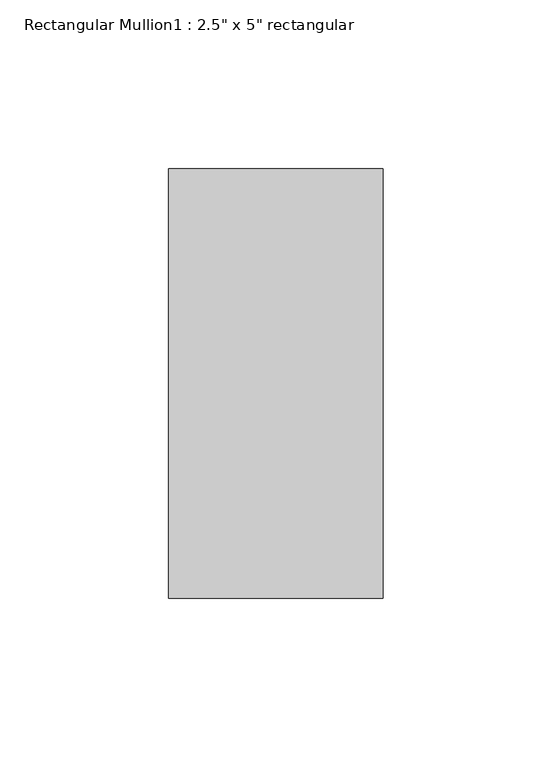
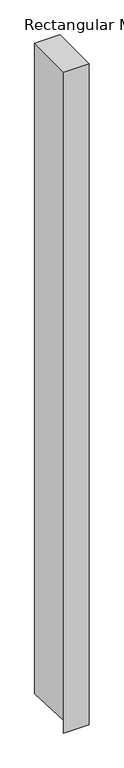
"""IFC4 building model written with IfcOpenShell, lengths in millimetres: member geometry."""

from ifc_helpers import new_model, si_unit, frame, origin, place, context, project, spatial, polyline, outline, extrude, source, transform, mapped, element, save


def member_2ed1719b(model_context):
    return source(origin(), model_context, "Body", "SweptSolid", [
        extrude(outline(polyline([(-63.5, 0.0), (63.5, 0.0), (63.5, -1736.0758182), (-62.1741259, -1731.0262636), (-63.5, -1764.0248302), (-63.5, 0.0)])), frame((-63.5, 0.0, 0.0), z_axis=(1.0, 0.0, 0.0), x_axis=(0.0, 1.0, 0.0)), (0.0, 0.0, 1.0), 63.5),
    ])


if __name__ == "__main__":
    model = new_model("IFC4")
    model_context = context("Model", 3, world=origin())
    ifc_project = project(units=[si_unit("LENGTHUNIT", "METRE", prefix="MILLI")], contexts=[model_context])
    site = spatial("IfcSite", under=ifc_project)
    building = spatial("IfcBuilding", under=site)
    placement = place(None, origin())
    member_shape = member_2ed1719b(model_context)
    element("IfcMember", 1, ObjectType="Rectangular Mullion1 : 2.5\" x 5\" rectangular", at=placement, inside=building, context=model_context, shape_type="MappedRepresentation", body=[
        mapped(member_shape, transform((0.0, 0.0, 0.0), x_axis=(1.0, 0.0, 0.0), y_axis=(0.0, 1.0, 0.0), z_axis=(0.0, 0.0, 1.0))),
    ])
    save(model, "model.ifc")
